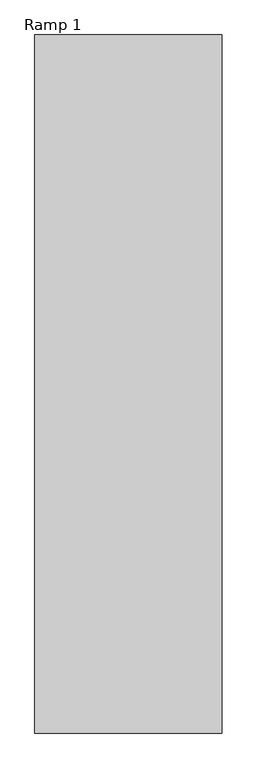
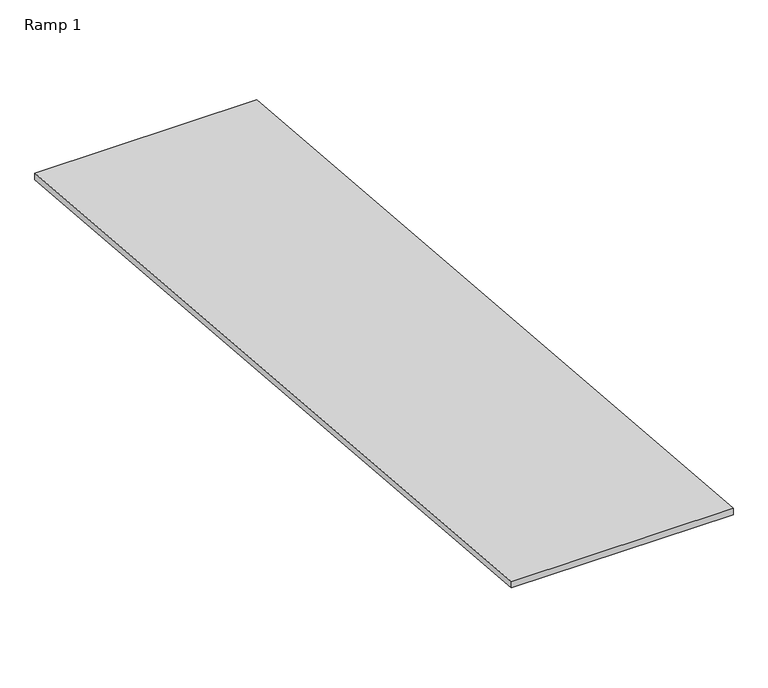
"""IFC4 building model written with IfcOpenShell, lengths in millimetres: ramp geometry, Ramp 1."""

from ifc_helpers import new_model, si_unit, frame, origin, place, context, project, spatial, polyline, outline, extrude, source, transform, mapped, element, save


def ramp_1_a1c3d9f5(model_context):
    return source(origin(), model_context, "Body", "SweptSolid", [
        extrude(outline(polyline([(-14776.7671527, -1939.1177083), (-5127.7796527, -2743.2), (-5127.7796527, -2819.6641256), (-14776.7671527, -2015.5818339), (-14776.7671527, -1939.1177083)])), frame((-4970.1266822, 0.0, 0.0), z_axis=(1.0, 0.0, 0.0), x_axis=(0.0, 1.0, 0.0)), (0.0, 0.0, 1.0), 2590.8),
    ])


if __name__ == "__main__":
    model = new_model("IFC4")
    model_context = context("Model", 3, world=origin())
    ifc_project = project(units=[si_unit("LENGTHUNIT", "METRE", prefix="MILLI")], contexts=[model_context])
    site = spatial("IfcSite", under=ifc_project)
    building = spatial("IfcBuilding", under=site)
    placement = place(None, origin())
    ramp_1_shape = ramp_1_a1c3d9f5(model_context)
    element("IfcRamp", 1, ObjectType="Ramp 1", at=placement, inside=building, context=model_context, shape_type="MappedRepresentation", body=[
        mapped(ramp_1_shape, transform((0.0, 0.0, 0.0), x_axis=(1.0, 0.0, 0.0), y_axis=(0.0, 1.0, 0.0), z_axis=(0.0, 0.0, 1.0))),
    ])
    save(model, "model.ifc")
